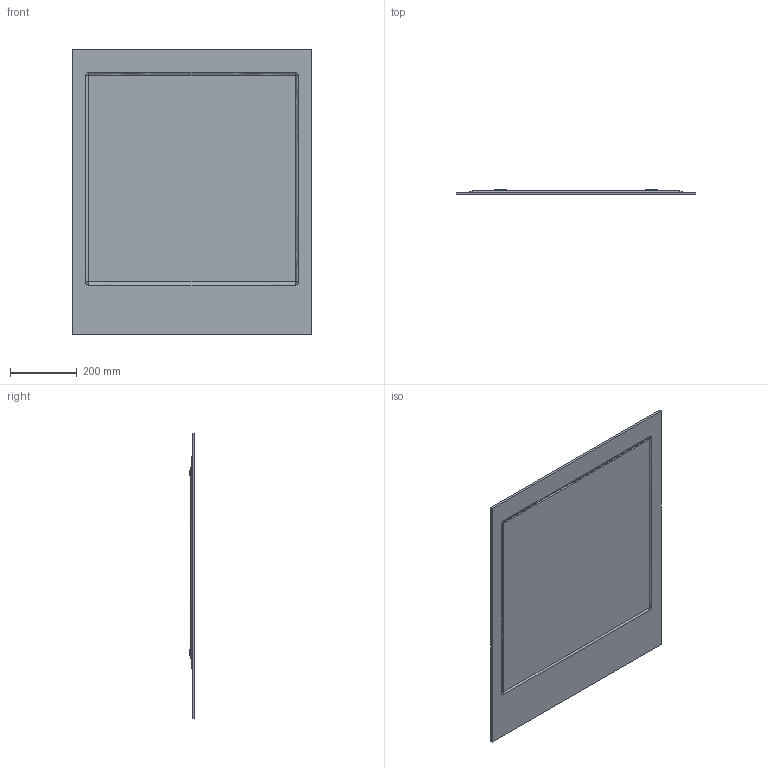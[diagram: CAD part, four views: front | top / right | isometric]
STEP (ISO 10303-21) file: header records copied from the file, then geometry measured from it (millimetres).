
FILE_DESCRIPTION(/* description */ (''),/* implementation_level */ '2;1');
FILE_NAME(/* name */ 'IST72_3D',/* time_stamp */ '2026-06-29T16:54:06+02:00',/* author */ (''),/* organization */ (''),/* preprocessor_version */ 'ST-DEVELOPER v16.5',/* originating_system */ '',/* authorisation */ '');
FILE_SCHEMA (('CONFIG_CONTROL_DESIGN'));
Length unit declared in the file: millimetre
Products named in the file (1): Document
Bounding box: 720 x 16.61 x 860 mm (x, y, z)
Volume: 6006187.5 mm3; surface area: 2713116.4 mm2
Topology: 7 solids, 7 shells, 104 faces, 260 edges, 164 vertices
Faces by surface type: plane 84, bspline 20
Entity records: 6510 total; most frequent: CARTESIAN_POINT 4670, ORIENTED_EDGE 504, EDGE_CURVE 252, B_SPLINE_CURVE_WITH_KNOTS 224, VERTEX_POINT 164, EDGE_LOOP 114, ADVANCED_FACE 104, FACE_OUTER_BOUND 104
